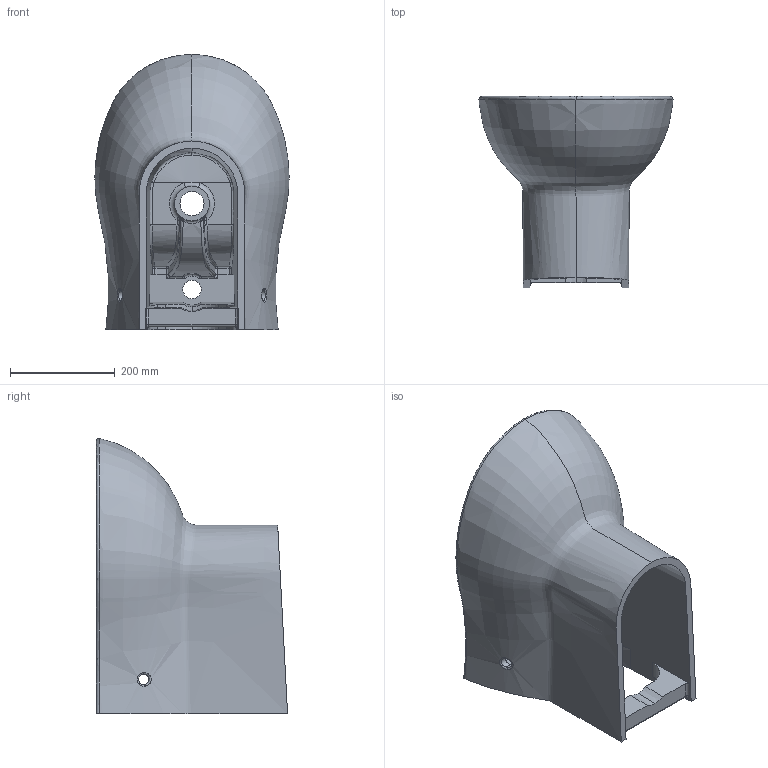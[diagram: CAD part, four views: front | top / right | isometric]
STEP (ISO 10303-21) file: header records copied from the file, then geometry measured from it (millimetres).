
FILE_DESCRIPTION (( 'STEP AP203' ), '1' );
FILE_NAME ('FABKS000000M - Copia.STEP', '2019-05-22T10:03:34', ( '' ), ( '' ), 'SwSTEP 2.0', 'SolidWorks 2019', '' );
FILE_SCHEMA (( 'CONFIG_CONTROL_DESIGN' ));
Length unit declared in the file: millimetre
Products named in the file (1): FABKS000000M - Copia
Bounding box: 369.72 x 364 x 524.1 mm (x, y, z)
Volume: 13436168.7 mm3; surface area: 1028420.4 mm2
Topology: 1 solids, 3 shells, 181 faces, 473 edges, 289 vertices
Faces by surface type: bspline 75, plane 33, cylinder 33, torus 21, sphere 12, cone 7
Entity records: 23632 total; most frequent: CARTESIAN_POINT 19831, ORIENTED_EDGE 910, DIRECTION 593, EDGE_CURVE 455, VERTEX_POINT 283, AXIS2_PLACEMENT_3D 257, B_SPLINE_CURVE_WITH_KNOTS 208, EDGE_LOOP 198
